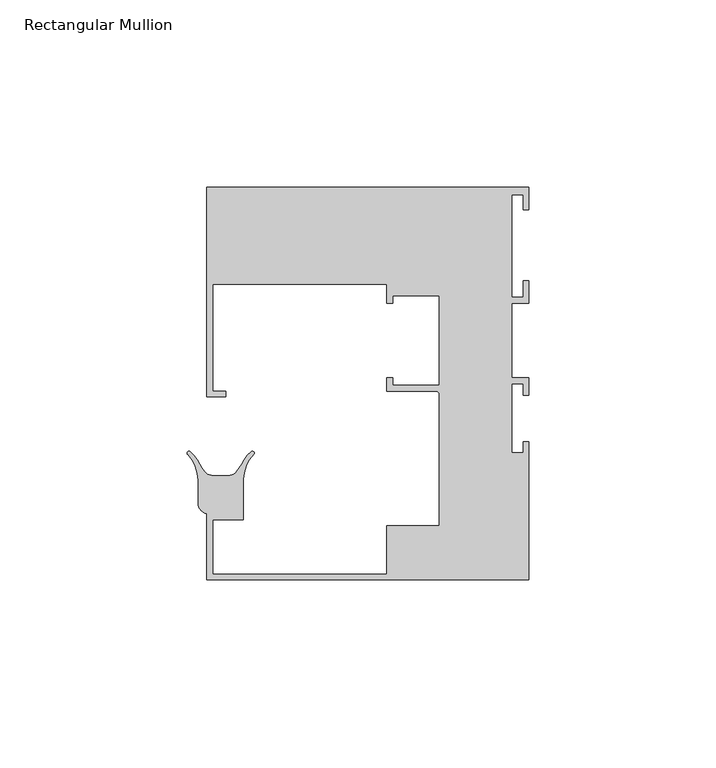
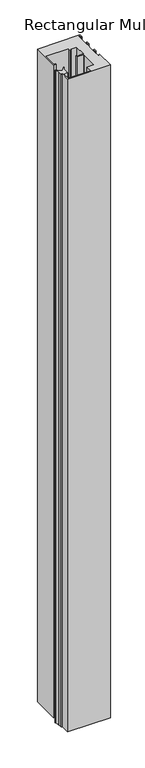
"""IFC4 building model written with IfcOpenShell, lengths in millimetres: member geometry, Rectangular Mullion : Danpal_Airpt_End-Mullion_B2."""

from ifc_helpers import new_model, si_unit, point, frame, frame_2d, origin, place, context, project, spatial, polyline, circle_curve, trimmed, segment, composite_curve, outline, extrude, source, transform, mapped, element, save


def rectangular_mullion_a538f7c7(model_context):
    return source(origin(), model_context, "Body", "SweptSolid", [
        extrude(outline(composite_curve([segment(polyline([(-28.3319078, 44.249979), (-28.3319078, 15.7500001), (-24.8319078, 15.7500001), (-24.8319078, 14.2500001), (-29.8319078, 14.2500001), (-29.8319078, 70.2500001), (56.1680922, 70.2500001), (56.1680922, 64.2500001), (54.6680922, 64.2500001), (54.6680922, 68.2500001), (51.6680922, 68.2500001), (51.6680922, 40.7500001), (54.6499985, 40.7500001), (54.6499985, 45.2500001), (56.1499985, 45.2500001), (56.1499985, 39.2500001), (51.6680922, 39.2500001), (51.6680922, 19.25), (56.15, 19.25), (56.15, 14.65), (54.65, 14.65), (54.65, 17.65), (51.65, 17.65), (51.65, -0.75), (54.65, -0.75), (54.65, 2.25), (56.15, 2.25), (56.15, -34.75), (-29.8499992, -34.75), (-29.8499992, -17.0365625)]), True, "CONTINUOUS"), segment(trimmed(circle_curve(frame_2d((-29.1986238, -14.1081309)), 3.0000002), [point((-29.8499992, -17.0365625))], [point((-32.1986067, -14.1183419))], False, "CARTESIAN"), True, "CONTINUOUS"), segment(polyline([(-32.1986067, -14.1183419), (-32.1986067, -8.1181379)]), True, "CONTINUOUS"), segment(trimmed(circle_curve(frame_2d((-42.198548, -8.1523787)), 10.0), [point((-32.1986067, -8.1181379))], [point((-35.0108364, -1.1999114))], True, "CARTESIAN"), True, "CONTINUOUS"), segment(trimmed(circle_curve(frame_2d((-34.6513305, -0.8521716)), 0.5001675), [point((-35.0108364, -1.1999114))], [point((-34.3289194, -0.4697862))], False, "CARTESIAN"), True, "CONTINUOUS"), segment(trimmed(circle_curve(frame_2d((-40.774981, -8.114934)), 9.9999998), [point((-34.3289194, -0.4697862))], [point((-31.7608489, -3.785336))], False, "CARTESIAN"), True, "CONTINUOUS"), segment(trimmed(circle_curve(frame_2d((-22.7467169, 0.544262)), 9.9999997), [point((-31.7608489, -3.785336))], [point((-30.5309383, -5.7331494))], True, "CARTESIAN"), True, "CONTINUOUS"), segment(trimmed(circle_curve(frame_2d((-28.1956718, -3.8499259)), 3.0), [point((-30.5309383, -5.7331494))], [point((-28.1956718, -6.8499259))], True, "CARTESIAN"), True, "CONTINUOUS"), segment(polyline([(-28.1956718, -6.8499259), (-24.1570278, -6.8499259)]), True, "CONTINUOUS"), segment(trimmed(circle_curve(frame_2d((-24.1570278, -3.8499259)), 3.0), [point((-24.1570278, -6.8499259))], [point((-21.8217605, -5.7331484))], True, "CARTESIAN"), True, "CONTINUOUS"), segment(trimmed(circle_curve(frame_2d((-29.6059846, 0.5442599)), 10.0), [point((-21.8217605, -5.7331484))], [point((-20.5918518, -3.7853369))], True, "CARTESIAN"), True, "CONTINUOUS"), segment(trimmed(circle_curve(frame_2d((-11.5777192, -8.1149337)), 9.9999997), [point((-20.5918518, -3.7853369))], [point((-18.026354, -0.4719563))], False, "CARTESIAN"), True, "CONTINUOUS"), segment(trimmed(circle_curve(frame_2d((-17.7037094, -0.8543575)), 0.5003301), [point((-18.026354, -0.4719563))], [point((-17.3439806, -1.2021009))], False, "CARTESIAN"), True, "CONTINUOUS"), segment(trimmed(circle_curve(frame_2d((-10.1541518, -8.1523787)), 10.0), [point((-17.3439806, -1.2021009))], [point((-20.1500023, -7.8643287))], True, "CARTESIAN"), True, "CONTINUOUS"), segment(polyline([(-20.1500023, -7.8643287), (-20.1500023, -18.6499969), (-28.3500023, -18.6499969), (-28.3500023, -33.2499969), (18.1500023, -33.2499969), (18.1500023, -20.2499969), (32.2500023, -20.2499969), (32.2500023, 14.698377)]), True, "CONTINUOUS"), segment(trimmed(circle_curve(frame_2d((31.1983762, 14.698377)), 1.0516261), [point((32.2500023, 14.698377))], [point((31.1983762, 15.7500031))], True, "CARTESIAN"), True, "CONTINUOUS"), segment(polyline([(31.1983762, 15.7500031), (18.1500023, 15.7500031), (18.1500023, 19.2500031), (19.7500023, 19.2500031), (19.7500023, 17.2500031), (32.2500023, 17.2500031), (32.2500023, 41.2500001), (19.7680922, 41.2500001), (19.7680922, 39.2500001), (18.1680922, 39.2500001), (18.1680922, 44.249979), (-28.3319078, 44.249979)]), True, "CONTINUOUS")], self_intersect=False)), frame((0.0, 0.0, -1387.6638156), z_axis=(0.0, 0.0, 1.0), x_axis=(1.0, 0.0, 0.0)), (0.0, 0.0, 1.0), 1387.6638156),
    ])


if __name__ == "__main__":
    model = new_model("IFC4")
    model_context = context("Model", 3, world=origin())
    ifc_project = project(units=[si_unit("LENGTHUNIT", "METRE", prefix="MILLI")], contexts=[model_context])
    site = spatial("IfcSite", under=ifc_project)
    building = spatial("IfcBuilding", under=site)
    placement = place(None, origin())
    rectangular_mullion_shape = rectangular_mullion_a538f7c7(model_context)
    element("IfcMember", 1, ObjectType="Rectangular Mullion : Danpal_Airpt_End-Mullion_B2", at=placement, inside=building, context=model_context, shape_type="MappedRepresentation", body=[
        mapped(rectangular_mullion_shape, transform((0.0, 0.0, 0.0), x_axis=(1.0, 0.0, 0.0), y_axis=(0.0, 1.0, 0.0), z_axis=(0.0, 0.0, 1.0))),
    ])
    save(model, "model.ifc")
